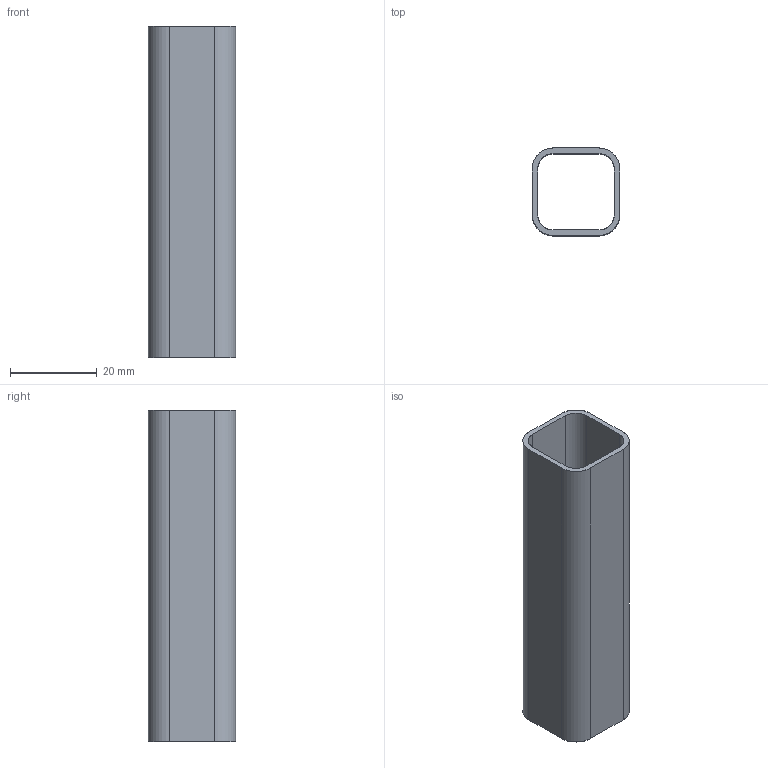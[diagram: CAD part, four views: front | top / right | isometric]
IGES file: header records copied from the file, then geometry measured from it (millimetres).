
Start section: SolidWorks IGES file using analytic representation for surfaces
Global section: file name: C:\Working\Gusset Convert\DRP-002-0000-03.IGS; native system: SolidWorks 2010; preprocessor: SolidWorks 2010; author: mbush2; date: 100624.123015; units: inch
Bounding box: 20.14 x 20.14 x 76.2 mm (x, y, z)
Surface area: 10577.2 mm2 (no closed solid volume)
Topology: 0 solids, 0 shells, 18 faces, 208 edges, 208 vertices
Faces by surface type: bspline 10, revolution 8
